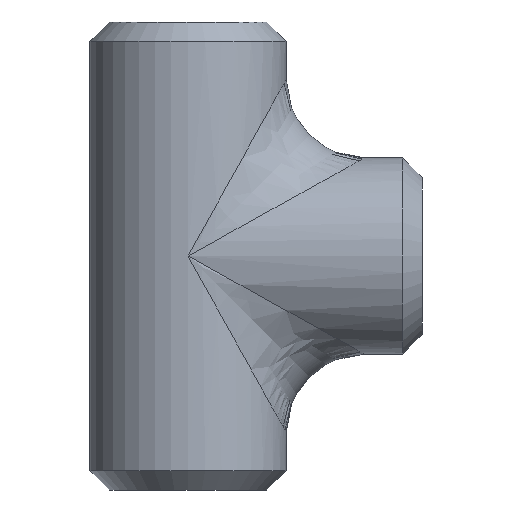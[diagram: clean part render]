
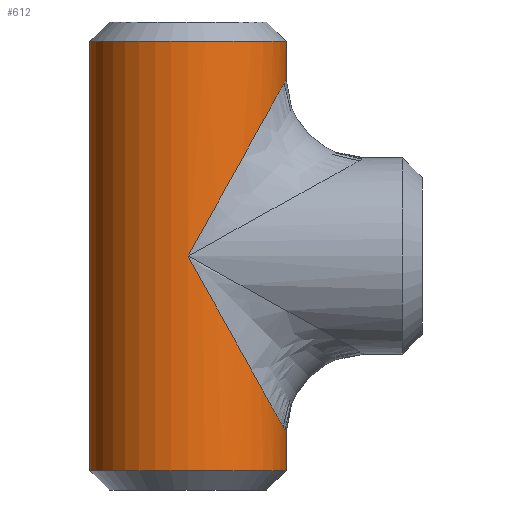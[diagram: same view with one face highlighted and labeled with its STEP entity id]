
A CAD part, front view. The second image highlights one B-rep face of the part: STEP entity #612.
In plain terms, the highlighted cylindrical face has radius 10.65 mm (diameter 21.3 mm), a partial arc.
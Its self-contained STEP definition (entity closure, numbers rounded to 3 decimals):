
#12 =( BOUNDED_CURVE ( )  B_SPLINE_CURVE ( 3, ( #914, #1182, #233, #718 ),
 .UNSPECIFIED., .F., .T. ) 
 B_SPLINE_CURVE_WITH_KNOTS ( ( 4, 4 ),
 ( 3.142, 4.712 ),
 .UNSPECIFIED. ) 
 CURVE ( )  GEOMETRIC_REPRESENTATION_ITEM ( )  RATIONAL_B_SPLINE_CURVE ( ( 1., 0.805, 0.805, 1. ) ) 
 REPRESENTATION_ITEM ( '' )  );
#88 = CARTESIAN_POINT ( 'NONE',  ( 10.65, 0., 19.17 ) ) ;
#109 = CARTESIAN_POINT ( 'NONE',  ( 0., -10.65, 0. ) ) ;
#119 = VECTOR ( 'NONE', #638, 1000. ) ;
#146 = VERTEX_POINT ( 'NONE', #268 ) ;
#189 = CYLINDRICAL_SURFACE ( 'NONE', #1070, 10.65 ) ;
#201 = CARTESIAN_POINT ( 'NONE',  ( 0., 0., 23.3 ) ) ;
#233 = CARTESIAN_POINT ( 'NONE',  ( 6.239, -10.65, -11.23 ) ) ;
#248 = DIRECTION ( 'NONE',  ( 0., 0., -1. ) ) ;
#268 = CARTESIAN_POINT ( 'NONE',  ( -10.65, 0., 23.3 ) ) ;
#271 = VERTEX_POINT ( 'NONE', #1205 ) ;
#277 = CARTESIAN_POINT ( 'NONE',  ( 0., 0., -23.3 ) ) ;
#284 = CARTESIAN_POINT ( 'NONE',  ( 10.65, -6.239, 19.17 ) ) ;
#296 = EDGE_CURVE ( 'NONE', #699, #1100, #331, .T. ) ;
#331 = LINE ( 'NONE', #723, #344 ) ;
#335 = EDGE_CURVE ( 'NONE', #271, #1083, #12, .T. ) ;
#344 = VECTOR ( 'NONE', #248, 1000. ) ;
#351 = LINE ( 'NONE', #911, #119 ) ;
#367 = CARTESIAN_POINT ( 'NONE',  ( 10.65, 0., 25.4 ) ) ;
#371 = DIRECTION ( 'NONE',  ( 1., 0., 0. ) ) ;
#422 = ORIENTED_EDGE ( 'NONE', *, *, #513, .T. ) ;
#428 = CIRCLE ( 'NONE', #890, 10.65 ) ;
#431 = ORIENTED_EDGE ( 'NONE', *, *, #743, .T. ) ;
#442 = ORIENTED_EDGE ( 'NONE', *, *, #593, .F. ) ;
#454 = CARTESIAN_POINT ( 'NONE',  ( 0., 0., 25.4 ) ) ;
#461 = LINE ( 'NONE', #367, #585 ) ;
#491 = CARTESIAN_POINT ( 'NONE',  ( 10.65, 0., 19.17 ) ) ;
#513 = EDGE_CURVE ( 'NONE', #1083, #1100, #654, .T. ) ;
#569 = DIRECTION ( 'NONE',  ( 0., 0., -1. ) ) ;
#585 = VECTOR ( 'NONE', #1146, 1000. ) ;
#593 = EDGE_CURVE ( 'NONE', #271, #755, #461, .T. ) ;
#607 = EDGE_LOOP ( 'NONE', ( #1000, #1201, #782, #431, #442, #869, #422 ) ) ;
#612 = ADVANCED_FACE ( 'NONE', ( #931 ), #189, .T. ) ;
#638 = DIRECTION ( 'NONE',  ( 0., 0., -1. ) ) ;
#654 =( BOUNDED_CURVE ( )  B_SPLINE_CURVE ( 3, ( #109, #937, #284, #88 ),
 .UNSPECIFIED., .F., .T. ) 
 B_SPLINE_CURVE_WITH_KNOTS ( ( 4, 4 ),
 ( 1.571, 3.142 ),
 .UNSPECIFIED. ) 
 CURVE ( )  GEOMETRIC_REPRESENTATION_ITEM ( )  RATIONAL_B_SPLINE_CURVE ( ( 1., 0.805, 0.805, 1. ) ) 
 REPRESENTATION_ITEM ( '' )  );
#667 = EDGE_CURVE ( 'NONE', #699, #146, #1120, .T. ) ;
#699 = VERTEX_POINT ( 'NONE', #840 ) ;
#718 = CARTESIAN_POINT ( 'NONE',  ( 0., -10.65, 0. ) ) ;
#723 = CARTESIAN_POINT ( 'NONE',  ( 10.65, 0., 25.4 ) ) ;
#743 = EDGE_CURVE ( 'NONE', #1140, #755, #428, .T. ) ;
#755 = VERTEX_POINT ( 'NONE', #1069 ) ;
#782 = ORIENTED_EDGE ( 'NONE', *, *, #1207, .T. ) ;
#813 = CARTESIAN_POINT ( 'NONE',  ( 0., -10.65, 0. ) ) ;
#840 = CARTESIAN_POINT ( 'NONE',  ( 10.65, 0., 23.3 ) ) ;
#847 = DIRECTION ( 'NONE',  ( -1., 0., 0. ) ) ;
#852 = DIRECTION ( 'NONE',  ( 0., 0., -1. ) ) ;
#855 = DIRECTION ( 'NONE',  ( 0., 0., 1. ) ) ;
#869 = ORIENTED_EDGE ( 'NONE', *, *, #335, .T. ) ;
#890 = AXIS2_PLACEMENT_3D ( 'NONE', #277, #855, #371 ) ;
#911 = CARTESIAN_POINT ( 'NONE',  ( -10.65, 0., 25.4 ) ) ;
#914 = CARTESIAN_POINT ( 'NONE',  ( 10.65, 0., -19.17 ) ) ;
#917 = CARTESIAN_POINT ( 'NONE',  ( -10.65, 0., -23.3 ) ) ;
#931 = FACE_OUTER_BOUND ( 'NONE', #607, .T. ) ;
#937 = CARTESIAN_POINT ( 'NONE',  ( 6.239, -10.65, 11.23 ) ) ;
#954 = DIRECTION ( 'NONE',  ( 1., 0., 0. ) ) ;
#1000 = ORIENTED_EDGE ( 'NONE', *, *, #296, .F. ) ;
#1069 = CARTESIAN_POINT ( 'NONE',  ( 10.65, 0., -23.3 ) ) ;
#1070 = AXIS2_PLACEMENT_3D ( 'NONE', #454, #852, #847 ) ;
#1083 = VERTEX_POINT ( 'NONE', #813 ) ;
#1093 = AXIS2_PLACEMENT_3D ( 'NONE', #201, #569, #954 ) ;
#1100 = VERTEX_POINT ( 'NONE', #491 ) ;
#1120 = CIRCLE ( 'NONE', #1093, 10.65 ) ;
#1140 = VERTEX_POINT ( 'NONE', #917 ) ;
#1146 = DIRECTION ( 'NONE',  ( 0., 0., -1. ) ) ;
#1182 = CARTESIAN_POINT ( 'NONE',  ( 10.65, -6.239, -19.17 ) ) ;
#1201 = ORIENTED_EDGE ( 'NONE', *, *, #667, .T. ) ;
#1205 = CARTESIAN_POINT ( 'NONE',  ( 10.65, 0., -19.17 ) ) ;
#1207 = EDGE_CURVE ( 'NONE', #146, #1140, #351, .T. ) ;
